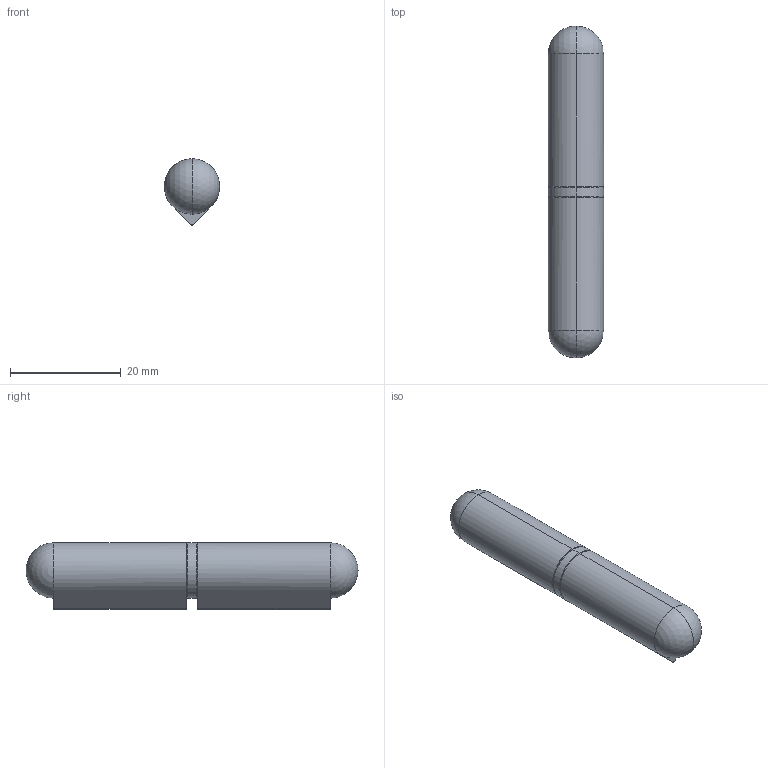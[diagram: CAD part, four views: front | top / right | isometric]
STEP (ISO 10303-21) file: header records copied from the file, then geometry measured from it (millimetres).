
FILE_DESCRIPTION (( 'STEP AP214' ), '1' );
FILE_NAME ('7011.00.060.STEP', '2021-01-21T03:39:44', ( '' ), ( '' ), 'SwSTEP 2.0', 'SolidWorks 2018', '' );
FILE_SCHEMA (( 'AUTOMOTIVE_DESIGN' ));
Length unit declared in the file: millimetre
Products named in the file (4): 7011.00-2_7011.00.060; 7011.00.060; 7011.00-3_7011.00.060; 7011.00-1_7004.00.060
Assembly tree (4 placements, depth 2):
  7011.00.060
    7011.00-1_7004.00.060  x2
    7011.00-2_7011.00.060
    7011.00-3_7011.00.060
Bounding box: 10 x 60 x 12 mm (x, y, z)
Volume: 4621.3 mm3; surface area: 3823.6 mm2
Topology: 4 solids, 4 shells, 45 faces, 104 edges, 63 vertices
Faces by surface type: cylinder 18, plane 13, torus 8, sphere 6
Entity records: 1100 total; most frequent: DIRECTION 188, CARTESIAN_POINT 142, ORIENTED_EDGE 128, AXIS2_PLACEMENT_3D 85, EDGE_CURVE 64, CIRCLE 46, VERTEX_POINT 39, EDGE_LOOP 35
